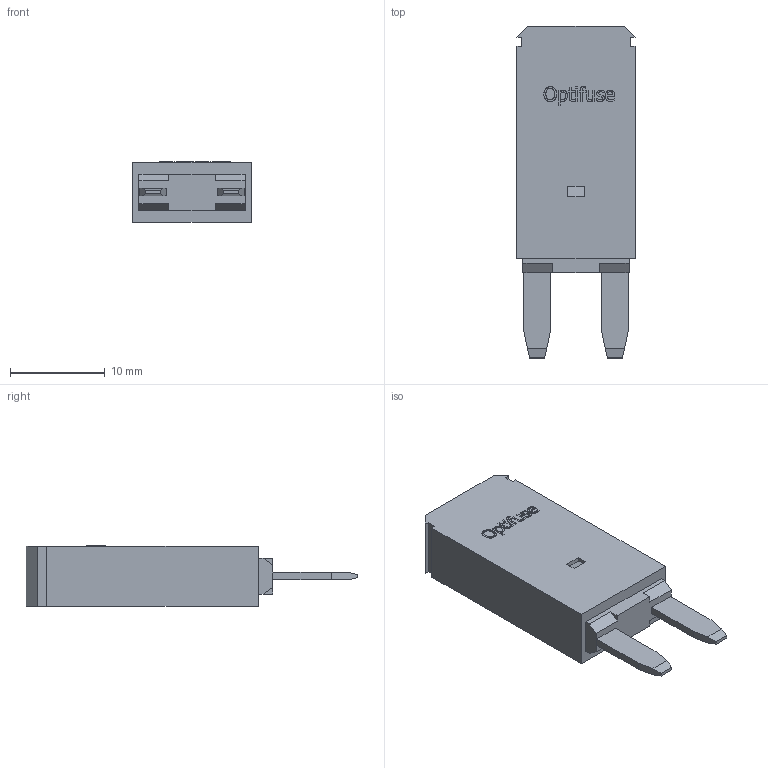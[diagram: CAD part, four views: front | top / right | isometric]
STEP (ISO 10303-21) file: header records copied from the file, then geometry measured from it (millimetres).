
FILE_DESCRIPTION(/* description */ (''),/* implementation_level */ '2;1');
FILE_NAME(/* name */ 'C:\Users\Hani\Desktop\work\ACBP4-PM\ACBP4-PM.stp',/* time_stamp */ '2021-10-09T17:40:49-07:00',/* author */ ('Hani'),/* organization */ (''),/* preprocessor_version */ 'ST-DEVELOPER v17',/* originating_system */ 'Autodesk Inventor 2019',/* authorisation */ '');
FILE_SCHEMA (('AUTOMOTIVE_DESIGN { 1 0 10303 214 3 1 1 }'));
Length unit declared in the file: millimetre
Products named in the file (1): MRCBP4-PM-B
Bounding box: 12.45 x 35 x 6.38 mm (x, y, z)
Volume: 2017.8 mm3; surface area: 1240.4 mm2
Topology: 1 solids, 1 shells, 193 faces, 522 edges, 348 vertices
Faces by surface type: plane 126, bspline 67
Entity records: 6628 total; most frequent: CARTESIAN_POINT 2145, ORIENTED_EDGE 1044, DIRECTION 642, EDGE_CURVE 522, LINE 388, VECTOR 388, VERTEX_POINT 348, EDGE_LOOP 210
